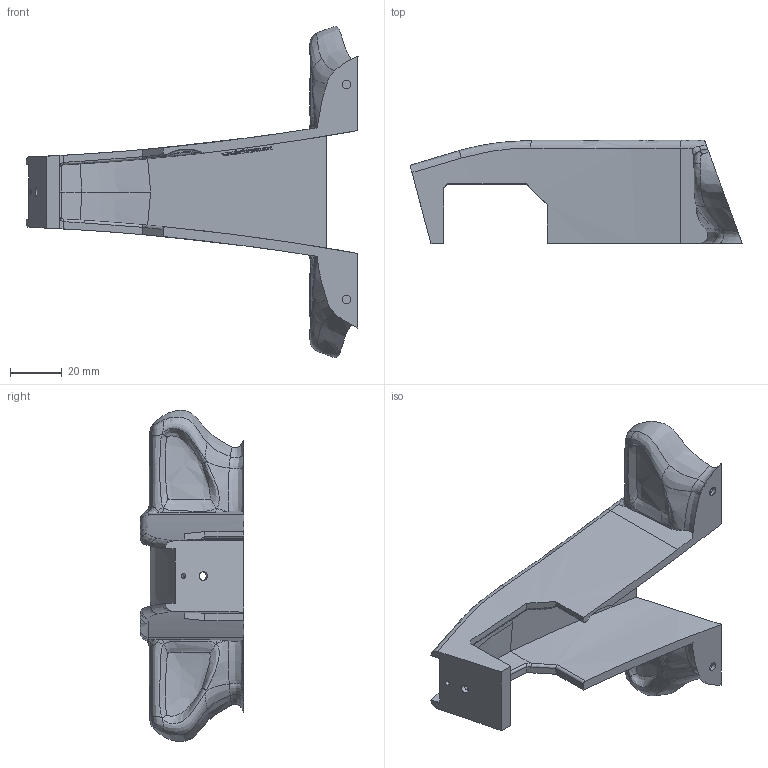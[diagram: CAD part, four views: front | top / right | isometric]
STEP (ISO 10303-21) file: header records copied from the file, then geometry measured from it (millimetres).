
FILE_DESCRIPTION(/* description */ (''),/* implementation_level */ '2;1');
FILE_NAME(/* name */ 'C:/Users/danie/Dropbox/OpenRC Formula 1 STL files/Dual Extrusion Files/Front Lower.stp',/* time_stamp */ '2016-05-30T22:57:50+02:00',/* author */ (''),/* organization */ (''),/* preprocessor_version */ 'ST-DEVELOPER v16.5',/* originating_system */ 'Autodesk Translation Framework v5.0.0.3310',/* authorisation */ '');
FILE_SCHEMA (('AUTOMOTIVE_DESIGN { 1 0 10303 214 3 1 1 }'));
Length unit declared in the file: centimetre
Products named in the file (1): Front Lower
Bounding box: 128.35 x 39.85 x 128.05 mm (x, y, z)
Volume: 55708.8 mm3; surface area: 30469.4 mm2
Topology: 1 solids, 1 shells, 1028 faces, 2831 edges, 1877 vertices
Faces by surface type: bspline 598, plane 391, cylinder 27, torus 8, cone 3, sphere 1
Full cylindrical faces by diameter (mm): 1.85 x1, 3.3 x5
Entity records: 49313 total; most frequent: CARTESIAN_POINT 27183, ORIENTED_EDGE 5640, EDGE_CURVE 2820, DIRECTION 2657, VERTEX_POINT 1873, LINE 1489, VECTOR 1489, B_SPLINE_CURVE_WITH_KNOTS 1130
